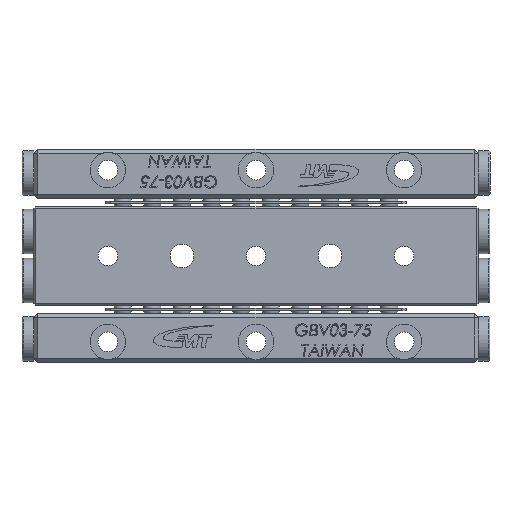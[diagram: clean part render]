
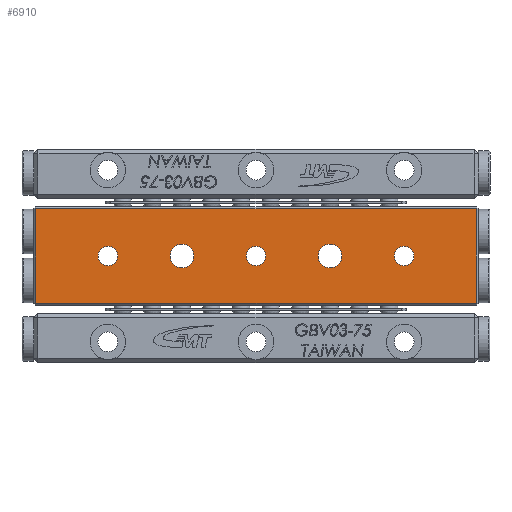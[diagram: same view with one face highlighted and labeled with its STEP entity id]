
A CAD part, front view. The second image highlights one B-rep face of the part: STEP entity #6910.
In plain terms, the highlighted planar face has unit normal (0, -1, 0).
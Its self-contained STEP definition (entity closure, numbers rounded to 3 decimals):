
#779 = CARTESIAN_POINT ( 'NONE',  ( 12.5, 0., 2. ) ) ;
#792 = DIRECTION ( 'NONE',  ( 0., 0., 1. ) ) ;
#1027 = ORIENTED_EDGE ( 'NONE', *, *, #26315, .T. ) ;
#1067 = VERTEX_POINT ( 'NONE', #11983 ) ;
#1204 = AXIS2_PLACEMENT_3D ( 'NONE', #8013, #21836, #19623 ) ;
#2581 = CARTESIAN_POINT ( 'NONE',  ( -37.5, 0., -8. ) ) ;
#2938 = AXIS2_PLACEMENT_3D ( 'NONE', #17803, #13418, #6914 ) ;
#2972 = VERTEX_POINT ( 'NONE', #25347 ) ;
#2985 = ORIENTED_EDGE ( 'NONE', *, *, #18684, .T. ) ;
#3362 = VECTOR ( 'NONE', #12787, 1000. ) ;
#3691 = VERTEX_POINT ( 'NONE', #28578 ) ;
#3800 = CIRCLE ( 'NONE', #27327, 2. ) ;
#3849 = FACE_BOUND ( 'NONE', #9857, .T. ) ;
#4713 = DIRECTION ( 'NONE',  ( 0., 1., 0. ) ) ;
#5718 = LINE ( 'NONE', #14711, #3362 ) ;
#5944 = ORIENTED_EDGE ( 'NONE', *, *, #20213, .T. ) ;
#6910 = ADVANCED_FACE ( 'NONE', ( #24016, #3849, #21797, #10631, #15905, #11217 ), #13712, .F. ) ;
#6914 = DIRECTION ( 'NONE',  ( 0., 0., 1. ) ) ;
#8013 = CARTESIAN_POINT ( 'NONE',  ( 25., 0., 0. ) ) ;
#8073 = VECTOR ( 'NONE', #8579, 1000. ) ;
#8579 = DIRECTION ( 'NONE',  ( 0., 0., 1. ) ) ;
#9797 = EDGE_LOOP ( 'NONE', ( #24241, #1027, #2985, #26690 ) ) ;
#9857 = EDGE_LOOP ( 'NONE', ( #13523 ) ) ;
#10501 = EDGE_LOOP ( 'NONE', ( #17266 ) ) ;
#10578 = DIRECTION ( 'NONE',  ( 0., 0., 1. ) ) ;
#10631 = FACE_BOUND ( 'NONE', #12738, .T. ) ;
#10656 = DIRECTION ( 'NONE',  ( 0., 1., 0. ) ) ;
#10717 = DIRECTION ( 'NONE',  ( 0., 1., 0. ) ) ;
#11112 = VERTEX_POINT ( 'NONE', #29054 ) ;
#11217 = FACE_BOUND ( 'NONE', #10501, .T. ) ;
#11836 = VERTEX_POINT ( 'NONE', #779 ) ;
#11983 = CARTESIAN_POINT ( 'NONE',  ( -25., 0., 1.65 ) ) ;
#12181 = EDGE_CURVE ( 'NONE', #11112, #11112, #19936, .T. ) ;
#12447 = CARTESIAN_POINT ( 'NONE',  ( -25., 0., 0. ) ) ;
#12572 = VERTEX_POINT ( 'NONE', #17939 ) ;
#12738 = EDGE_LOOP ( 'NONE', ( #5944 ) ) ;
#12787 = DIRECTION ( 'NONE',  ( -1., 0., 0. ) ) ;
#13114 = VECTOR ( 'NONE', #24667, 1000. ) ;
#13418 = DIRECTION ( 'NONE',  ( 0., 1., 0. ) ) ;
#13523 = ORIENTED_EDGE ( 'NONE', *, *, #24118, .T. ) ;
#13712 = PLANE ( 'NONE',  #24479 ) ;
#13889 = VERTEX_POINT ( 'NONE', #14326 ) ;
#13959 = DIRECTION ( 'NONE',  ( 0., 0., -1. ) ) ;
#14326 = CARTESIAN_POINT ( 'NONE',  ( 0., 0., 1.65 ) ) ;
#14524 = ORIENTED_EDGE ( 'NONE', *, *, #28084, .T. ) ;
#14711 = CARTESIAN_POINT ( 'NONE',  ( -37.5, 0., 8. ) ) ;
#15205 = CARTESIAN_POINT ( 'NONE',  ( 37.2, 0., 8.3 ) ) ;
#15259 = EDGE_CURVE ( 'NONE', #28984, #12572, #5718, .T. ) ;
#15905 = FACE_BOUND ( 'NONE', #26314, .T. ) ;
#16918 = EDGE_LOOP ( 'NONE', ( #22276 ) ) ;
#17266 = ORIENTED_EDGE ( 'NONE', *, *, #12181, .T. ) ;
#17803 = CARTESIAN_POINT ( 'NONE',  ( -12.5, 0., 0. ) ) ;
#17939 = CARTESIAN_POINT ( 'NONE',  ( -37.2, 0., 8. ) ) ;
#18254 = VECTOR ( 'NONE', #13959, 1000. ) ;
#18423 = AXIS2_PLACEMENT_3D ( 'NONE', #21521, #21230, #792 ) ;
#18551 = DIRECTION ( 'NONE',  ( 0., 0., 1. ) ) ;
#18584 = EDGE_CURVE ( 'NONE', #13889, #13889, #20303, .T. ) ;
#18620 = CARTESIAN_POINT ( 'NONE',  ( 37.2, 0., -8. ) ) ;
#18684 = EDGE_CURVE ( 'NONE', #22043, #28984, #21808, .T. ) ;
#18933 = CIRCLE ( 'NONE', #2938, 2. ) ;
#19623 = DIRECTION ( 'NONE',  ( 0., 0., 1. ) ) ;
#19754 = CIRCLE ( 'NONE', #24925, 1.65 ) ;
#19936 = CIRCLE ( 'NONE', #1204, 1.65 ) ;
#20101 = LINE ( 'NONE', #2581, #13114 ) ;
#20213 = EDGE_CURVE ( 'NONE', #2972, #2972, #18933, .T. ) ;
#20281 = LINE ( 'NONE', #25275, #18254 ) ;
#20303 = CIRCLE ( 'NONE', #18423, 1.65 ) ;
#21230 = DIRECTION ( 'NONE',  ( 0., 1., 0. ) ) ;
#21521 = CARTESIAN_POINT ( 'NONE',  ( 0., 0., 0. ) ) ;
#21797 = FACE_BOUND ( 'NONE', #16918, .T. ) ;
#21808 = LINE ( 'NONE', #15205, #8073 ) ;
#21836 = DIRECTION ( 'NONE',  ( 0., 1., 0. ) ) ;
#22033 = CARTESIAN_POINT ( 'NONE',  ( 12.5, 0., 0. ) ) ;
#22043 = VERTEX_POINT ( 'NONE', #18620 ) ;
#22276 = ORIENTED_EDGE ( 'NONE', *, *, #18584, .T. ) ;
#24016 = FACE_OUTER_BOUND ( 'NONE', #9797, .T. ) ;
#24118 = EDGE_CURVE ( 'NONE', #11836, #11836, #3800, .T. ) ;
#24241 = ORIENTED_EDGE ( 'NONE', *, *, #26074, .T. ) ;
#24479 = AXIS2_PLACEMENT_3D ( 'NONE', #27387, #4713, #18551 ) ;
#24667 = DIRECTION ( 'NONE',  ( 1., 0., 0. ) ) ;
#24925 = AXIS2_PLACEMENT_3D ( 'NONE', #12447, #10656, #26237 ) ;
#25275 = CARTESIAN_POINT ( 'NONE',  ( -37.2, 0., 8.3 ) ) ;
#25347 = CARTESIAN_POINT ( 'NONE',  ( -12.5, 0., 2. ) ) ;
#26074 = EDGE_CURVE ( 'NONE', #12572, #3691, #20281, .T. ) ;
#26237 = DIRECTION ( 'NONE',  ( 0., 0., 1. ) ) ;
#26314 = EDGE_LOOP ( 'NONE', ( #14524 ) ) ;
#26315 = EDGE_CURVE ( 'NONE', #3691, #22043, #20101, .T. ) ;
#26690 = ORIENTED_EDGE ( 'NONE', *, *, #15259, .T. ) ;
#27327 = AXIS2_PLACEMENT_3D ( 'NONE', #22033, #10717, #10578 ) ;
#27387 = CARTESIAN_POINT ( 'NONE',  ( -37.5, 0., 8.3 ) ) ;
#27493 = CARTESIAN_POINT ( 'NONE',  ( 37.2, 0., 8. ) ) ;
#28084 = EDGE_CURVE ( 'NONE', #1067, #1067, #19754, .T. ) ;
#28578 = CARTESIAN_POINT ( 'NONE',  ( -37.2, 0., -8. ) ) ;
#28984 = VERTEX_POINT ( 'NONE', #27493 ) ;
#29054 = CARTESIAN_POINT ( 'NONE',  ( 25., 0., 1.65 ) ) ;
